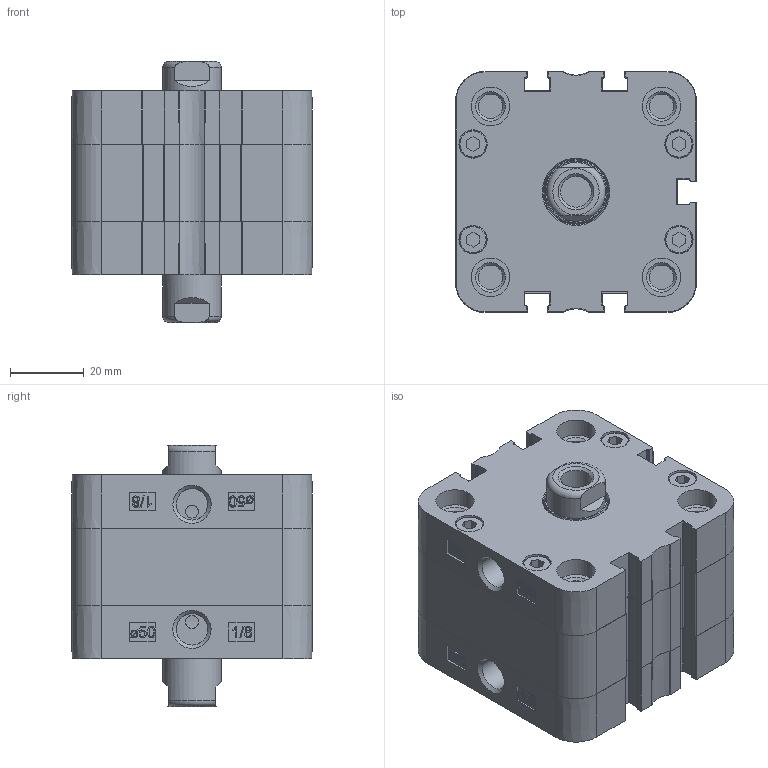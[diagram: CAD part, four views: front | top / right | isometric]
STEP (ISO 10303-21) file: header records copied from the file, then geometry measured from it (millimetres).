
FILE_DESCRIPTION(/* description */ ('Unknown'),/* implementation_level */ '2;1');
FILE_NAME(/* name */ 'ZBN 50_5',/* time_stamp */ '2024-11-15T10:59:26+01:00',/* author */ ('Unknown'),/* organization */ ('Unknown'),/* preprocessor_version */ 'ST-DEVELOPER v16.7',/* originating_system */ 'Solid Edge',/* authorisation */ 'Unknown');
FILE_SCHEMA (('AUTOMOTIVE_DESIGN {1 0 10303 214 3 1 1}'));
Length unit declared in the file: millimetre
Products named in the file (5): ZBN 50_5; Profilrohr; Kolbenstange; Kit_2; Kit_1
Assembly tree (5 placements, depth 2):
  ZBN 50_5
    Profilrohr
    Kolbenstange  x2
    Kit_2
    Kit_1
Bounding box: 65.5 x 65.5 x 71 mm (x, y, z)
Volume: 189798.2 mm3; surface area: 60082.8 mm2
Topology: 5 solids, 13 shells, 763 faces, 1961 edges, 1286 vertices
Faces by surface type: plane 344, cylinder 221, bspline 108, torus 46, cone 44
Full cylindrical faces by diameter (mm): 3.5 x2, 5.2 x8, 6.647 x8, 7.5 x8, 7.7 x8, 8.376 x4, 8.566 x2, 10.5 x8, 16 x2, 16.54 x2, 17.7 x2, 18 x2, 20.5 x2, 50 x3
Entity records: 27880 total; most frequent: CARTESIAN_POINT 5838, ORIENTED_EDGE 3584, DIRECTION 3342, EDGE_CURVE 1792, VERTEX_POINT 1239, AXIS2_PLACEMENT_3D 1163, LINE 1016, VECTOR 1016
